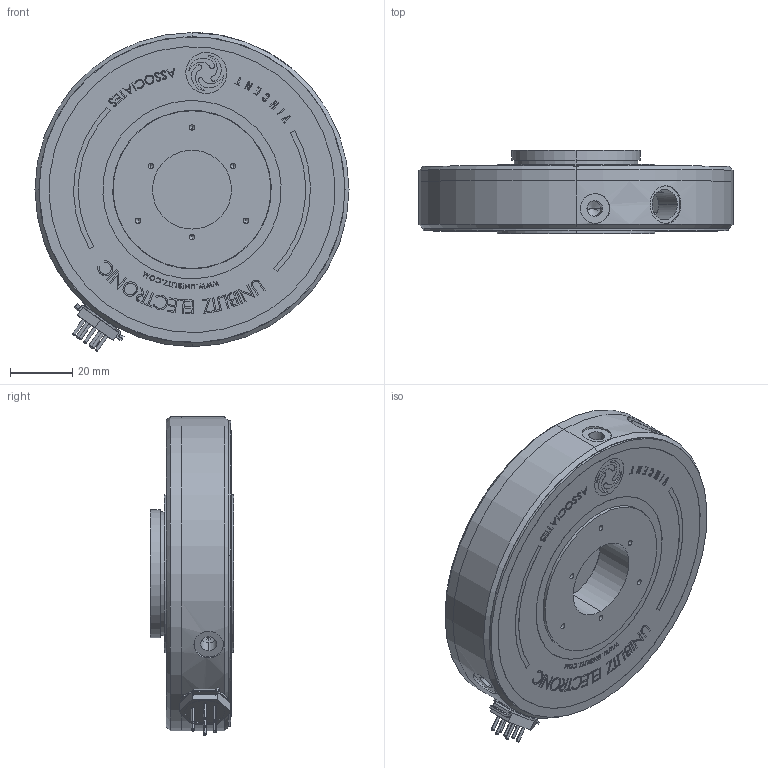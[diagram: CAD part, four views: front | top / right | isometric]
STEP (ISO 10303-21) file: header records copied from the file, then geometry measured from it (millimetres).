
FILE_DESCRIPTION (( 'STEP AP214' ), '1' );
FILE_NAME ('VS14-25 HOUSE dumb.STEP', '2013-07-17T18:07:54', ( 'helen' ), ( 'Microsoft' ), 'SwSTEP 2.0', 'SolidWorks 2010', '' );
FILE_SCHEMA (( 'AUTOMOTIVE_DESIGN' ));
Length unit declared in the file: inch
Products named in the file (1): VS14-25 HOUSE dumb
Bounding box: 101.09 x 26.8 x 102.61 mm (x, y, z)
Volume: 96949 mm3; surface area: 60128 mm2
Topology: 11 solids, 11 shells, 1392 faces, 3601 edges, 2320 vertices
Faces by surface type: plane 599, cylinder 340, cone 262, bspline 159, torus 24, sphere 8
Entity records: 75434 total; most frequent: CARTESIAN_POINT 23468, ORIENTED_EDGE 7154, DIRECTION 6777, EDGE_CURVE 3577, AXIS2_PLACEMENT_3D 2356, VERTEX_POINT 2320, VECTOR 2065, LINE 2065
